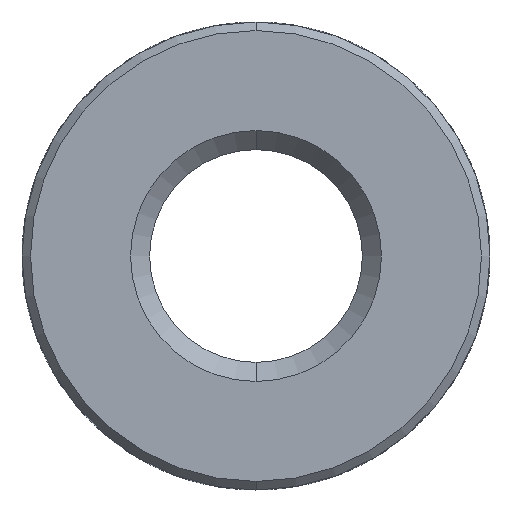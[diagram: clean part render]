
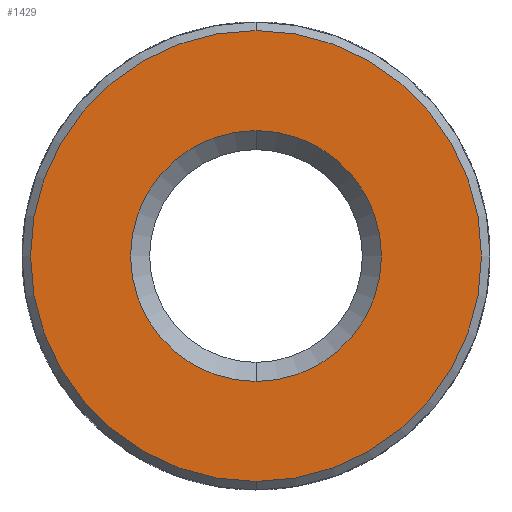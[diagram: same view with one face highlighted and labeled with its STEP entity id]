
A CAD part, front view. The second image highlights one B-rep face of the part: STEP entity #1429.
In plain terms, the highlighted planar face has unit normal (0, -1, 0).
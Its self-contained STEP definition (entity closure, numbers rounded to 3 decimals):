
#44 = EDGE_CURVE ( 'NONE', #2433, #2311, #3913, .T. ) ;
#97 = CARTESIAN_POINT ( 'NONE',  ( 0., -5.8, -2.65 ) ) ;
#163 = ORIENTED_EDGE ( 'NONE', *, *, #2624, .T. ) ;
#240 = DIRECTION ( 'NONE',  ( 0., 0., -1. ) ) ;
#259 = ORIENTED_EDGE ( 'NONE', *, *, #44, .T. ) ;
#318 = EDGE_CURVE ( 'NONE', #2311, #2433, #2361, .T. ) ;
#362 = EDGE_LOOP ( 'NONE', ( #3379, #163 ) ) ;
#387 = DIRECTION ( 'NONE',  ( 0., -1., 0. ) ) ;
#558 = CARTESIAN_POINT ( 'NONE',  ( 0., -5.8, 0. ) ) ;
#574 = AXIS2_PLACEMENT_3D ( 'NONE', #707, #723, #3188 ) ;
#704 = DIRECTION ( 'NONE',  ( 0., 0., -1. ) ) ;
#707 = CARTESIAN_POINT ( 'NONE',  ( 0., -5.8, 0. ) ) ;
#723 = DIRECTION ( 'NONE',  ( 0., 1., 0. ) ) ;
#735 = DIRECTION ( 'NONE',  ( 0., -1., 0. ) ) ;
#804 = DIRECTION ( 'NONE',  ( 0., 1., 0. ) ) ;
#882 = CARTESIAN_POINT ( 'NONE',  ( 0., -5.8, -1.475 ) ) ;
#1008 = DIRECTION ( 'NONE',  ( 0., -1., 0. ) ) ;
#1021 = DIRECTION ( 'NONE',  ( 0., 0., -1. ) ) ;
#1091 = CARTESIAN_POINT ( 'NONE',  ( 0., -5.8, 0. ) ) ;
#1212 = EDGE_LOOP ( 'NONE', ( #259, #1741 ) ) ;
#1429 = ADVANCED_FACE ( 'NONE', ( #3267, #3020 ), #1950, .T. ) ;
#1440 = VERTEX_POINT ( 'NONE', #2531 ) ;
#1458 = CIRCLE ( 'NONE', #1572, 2.65 ) ;
#1572 = AXIS2_PLACEMENT_3D ( 'NONE', #2880, #1008, #1021 ) ;
#1718 = DIRECTION ( 'NONE',  ( 0., 0., -1. ) ) ;
#1741 = ORIENTED_EDGE ( 'NONE', *, *, #318, .T. ) ;
#1950 = PLANE ( 'NONE',  #2561 ) ;
#2158 = CARTESIAN_POINT ( 'NONE',  ( 0., -5.8, 1.475 ) ) ;
#2311 = VERTEX_POINT ( 'NONE', #2158 ) ;
#2361 = CIRCLE ( 'NONE', #574, 1.475 ) ;
#2433 = VERTEX_POINT ( 'NONE', #882 ) ;
#2531 = CARTESIAN_POINT ( 'NONE',  ( 0., -5.8, 2.65 ) ) ;
#2559 = VERTEX_POINT ( 'NONE', #97 ) ;
#2561 = AXIS2_PLACEMENT_3D ( 'NONE', #3437, #387, #704 ) ;
#2624 = EDGE_CURVE ( 'NONE', #2559, #1440, #1458, .T. ) ;
#2880 = CARTESIAN_POINT ( 'NONE',  ( 0., -5.8, 0. ) ) ;
#3020 = FACE_BOUND ( 'NONE', #1212, .T. ) ;
#3053 = EDGE_CURVE ( 'NONE', #1440, #2559, #3686, .T. ) ;
#3188 = DIRECTION ( 'NONE',  ( 0., 0., -1. ) ) ;
#3267 = FACE_OUTER_BOUND ( 'NONE', #362, .T. ) ;
#3379 = ORIENTED_EDGE ( 'NONE', *, *, #3053, .T. ) ;
#3429 = AXIS2_PLACEMENT_3D ( 'NONE', #1091, #735, #1718 ) ;
#3437 = CARTESIAN_POINT ( 'NONE',  ( 0., -5.8, 2.75 ) ) ;
#3563 = AXIS2_PLACEMENT_3D ( 'NONE', #558, #804, #240 ) ;
#3686 = CIRCLE ( 'NONE', #3429, 2.65 ) ;
#3913 = CIRCLE ( 'NONE', #3563, 1.475 ) ;
